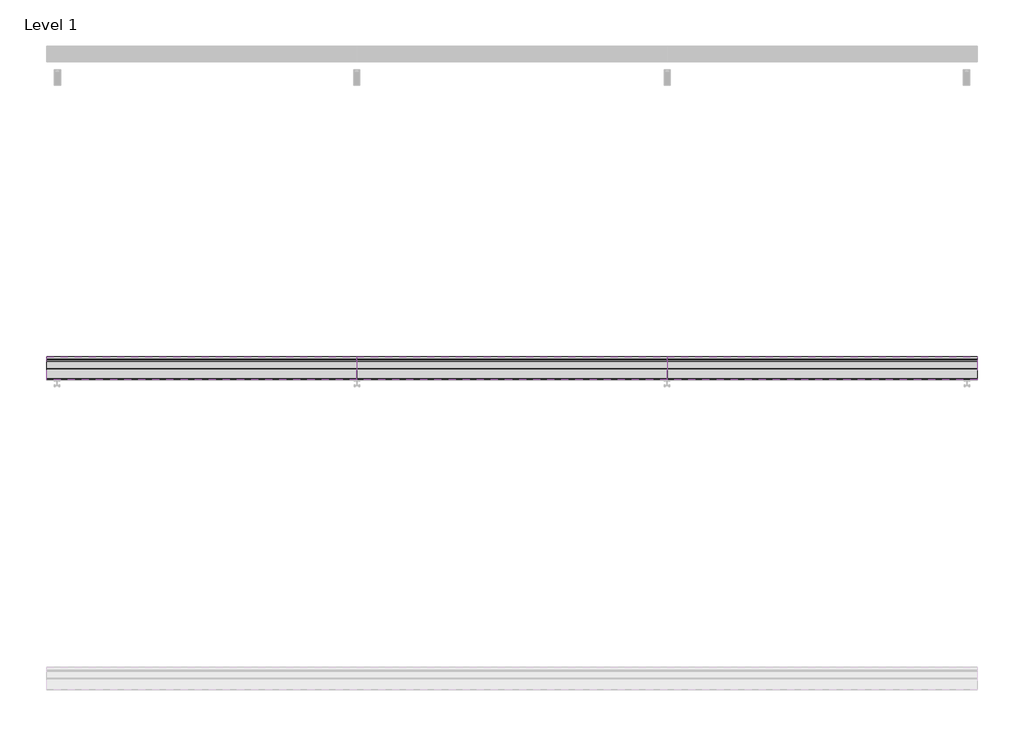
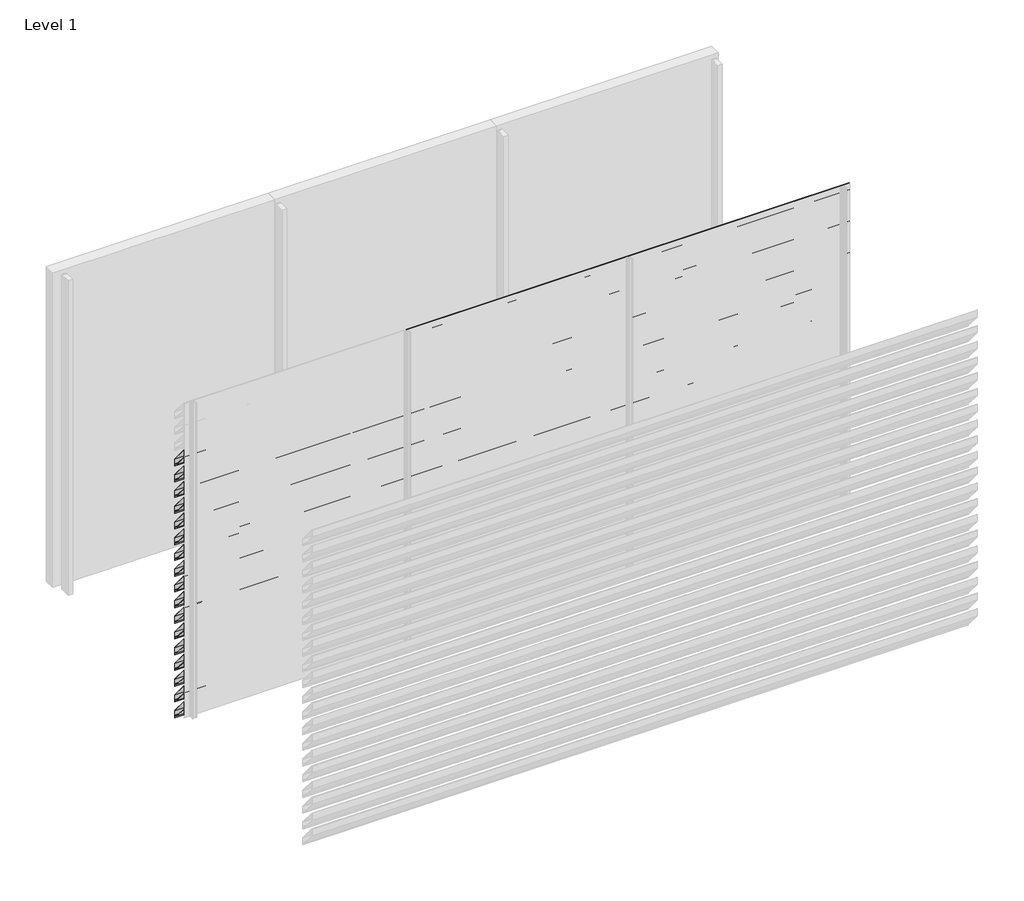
# One storey, part 6 of 16: 56 proxies.
"""IFC4 building model written with IfcOpenShell, lengths in millimetres."""

from ifc_helpers import new_model, si_unit, frame, origin, place, context, project, spatial, polyline, outline, extrude, element, save

model = new_model("IFC4")

# Units and contexts
model_context = context("Model", 3, world=origin())
ifc_project = project(units=[si_unit("LENGTHUNIT", "METRE", prefix="MILLI")], contexts=[model_context])

# Site, building, storey
site = spatial("IfcSite", under=ifc_project)
building = spatial("IfcBuilding", under=site)
storey = spatial("IfcBuildingStorey", under=building, Name="Level 1", Elevation=0.0)

# Proxies
placement = place(None, origin())
element("IfcBuildingElementProxy", 1, Name="Wall Sweeps", at=placement, inside=storey, context=model_context, shape_type="SweptSolid", body=[
    extrude(outline(polyline([(-41851.0, 2380.0), (-41851.0, 2311.0), (-41853.5, 2312.1657691), (-41853.5, 2325.7059843), (-41870.2498671, 2345.6676986), (-41880.9351065, 2345.6676986), (-41998.0, 2485.1802059), (-41998.0, 2550.0), (-41993.6469373, 2550.0), (-41851.0, 2380.0)]), holes=[polyline([(-41996.1, 2548.1), (-41996.1, 2485.8717493), (-41880.049122, 2347.5676986), (-41869.3638825, 2347.5676986), (-41852.9, 2327.9468074), (-41852.9, 2379.3084566), (-41994.5329219, 2548.1), (-41996.1, 2548.1)])]), frame((0.0, 0.0, 0.0), z_axis=(1.0, 0.0, 0.0), x_axis=(0.0, 1.0, 0.0)), (0.0, 0.0, 1.0), 2000.0),
])
element("IfcBuildingElementProxy", 2, Name="Wall Sweeps", at=placement, inside=storey, context=model_context, shape_type="SweptSolid", body=[
    extrude(outline(polyline([(-41851.0, 2230.0), (-41851.0, 2161.0), (-41853.5, 2162.1657691), (-41853.5, 2175.7059843), (-41870.2498671, 2195.6676986), (-41880.9351065, 2195.6676986), (-41998.0, 2335.1802059), (-41998.0, 2400.0), (-41993.6469373, 2400.0), (-41851.0, 2230.0)]), holes=[polyline([(-41996.1, 2398.1), (-41996.1, 2335.8717493), (-41880.049122, 2197.5676986), (-41869.3638825, 2197.5676986), (-41852.9, 2177.9468074), (-41852.9, 2229.3084566), (-41994.5329219, 2398.1), (-41996.1, 2398.1)])]), frame((0.0, 0.0, 0.0), z_axis=(1.0, 0.0, 0.0), x_axis=(0.0, 1.0, 0.0)), (0.0, 0.0, 1.0), 2000.0),
])
element("IfcBuildingElementProxy", 3, Name="Wall Sweeps", at=placement, inside=storey, context=model_context, shape_type="SweptSolid", body=[
    extrude(outline(polyline([(-41851.0, 2080.0), (-41851.0, 2011.0), (-41853.5, 2012.1657691), (-41853.5, 2025.7059843), (-41870.2498671, 2045.6676986), (-41880.9351065, 2045.6676986), (-41998.0, 2185.1802059), (-41998.0, 2250.0), (-41993.6469373, 2250.0), (-41851.0, 2080.0)]), holes=[polyline([(-41996.1, 2248.1), (-41996.1, 2185.8717493), (-41880.049122, 2047.5676986), (-41869.3638825, 2047.5676986), (-41852.9, 2027.9468074), (-41852.9, 2079.3084566), (-41994.5329219, 2248.1), (-41996.1, 2248.1)])]), frame((0.0, 0.0, 0.0), z_axis=(1.0, 0.0, 0.0), x_axis=(0.0, 1.0, 0.0)), (0.0, 0.0, 1.0), 2000.0),
])
element("IfcBuildingElementProxy", 4, Name="Wall Sweeps", at=placement, inside=storey, context=model_context, shape_type="SweptSolid", body=[
    extrude(outline(polyline([(-41851.0, 1930.0), (-41851.0, 1861.0), (-41853.5, 1862.1657691), (-41853.5, 1875.7059843), (-41870.2498671, 1895.6676986), (-41880.9351065, 1895.6676986), (-41998.0, 2035.1802059), (-41998.0, 2100.0), (-41993.6469373, 2100.0), (-41851.0, 1930.0)]), holes=[polyline([(-41996.1, 2098.1), (-41996.1, 2035.8717493), (-41880.049122, 1897.5676986), (-41869.3638825, 1897.5676986), (-41852.9, 1877.9468074), (-41852.9, 1929.3084566), (-41994.5329219, 2098.1), (-41996.1, 2098.1)])]), frame((0.0, 0.0, 0.0), z_axis=(1.0, 0.0, 0.0), x_axis=(0.0, 1.0, 0.0)), (0.0, 0.0, 1.0), 2000.0),
])
element("IfcBuildingElementProxy", 5, Name="Wall Sweeps", at=placement, inside=storey, context=model_context, shape_type="SweptSolid", body=[
    extrude(outline(polyline([(-41851.0, 1780.0), (-41851.0, 1711.0), (-41853.5, 1712.1657691), (-41853.5, 1725.7059843), (-41870.2498671, 1745.6676986), (-41880.9351065, 1745.6676986), (-41998.0, 1885.1802059), (-41998.0, 1950.0), (-41993.6469373, 1950.0), (-41851.0, 1780.0)]), holes=[polyline([(-41996.1, 1948.1), (-41996.1, 1885.8717493), (-41880.049122, 1747.5676986), (-41869.3638825, 1747.5676986), (-41852.9, 1727.9468074), (-41852.9, 1779.3084566), (-41994.5329219, 1948.1), (-41996.1, 1948.1)])]), frame((0.0, 0.0, 0.0), z_axis=(1.0, 0.0, 0.0), x_axis=(0.0, 1.0, 0.0)), (0.0, 0.0, 1.0), 2000.0),
])
element("IfcBuildingElementProxy", 6, Name="Wall Sweeps", at=placement, inside=storey, context=model_context, shape_type="SweptSolid", body=[
    extrude(outline(polyline([(-41851.0, 1630.0), (-41851.0, 1561.0), (-41853.5, 1562.1657691), (-41853.5, 1575.7059843), (-41870.2498671, 1595.6676986), (-41880.9351065, 1595.6676986), (-41998.0, 1735.1802059), (-41998.0, 1800.0), (-41993.6469373, 1800.0), (-41851.0, 1630.0)]), holes=[polyline([(-41996.1, 1798.1), (-41996.1, 1735.8717493), (-41880.049122, 1597.5676986), (-41869.3638825, 1597.5676986), (-41852.9, 1577.9468074), (-41852.9, 1629.3084566), (-41994.5329219, 1798.1), (-41996.1, 1798.1)])]), frame((0.0, 0.0, 0.0), z_axis=(1.0, 0.0, 0.0), x_axis=(0.0, 1.0, 0.0)), (0.0, 0.0, 1.0), 2000.0),
])
element("IfcBuildingElementProxy", 7, Name="Wall Sweeps", at=placement, inside=storey, context=model_context, shape_type="SweptSolid", body=[
    extrude(outline(polyline([(-41851.0, 1480.0), (-41851.0, 1411.0), (-41853.5, 1412.1657691), (-41853.5, 1425.7059843), (-41870.2498671, 1445.6676986), (-41880.9351065, 1445.6676986), (-41998.0, 1585.1802059), (-41998.0, 1650.0), (-41993.6469373, 1650.0), (-41851.0, 1480.0)]), holes=[polyline([(-41996.1, 1648.1), (-41996.1, 1585.8717493), (-41880.049122, 1447.5676986), (-41869.3638825, 1447.5676986), (-41852.9, 1427.9468074), (-41852.9, 1479.3084566), (-41994.5329219, 1648.1), (-41996.1, 1648.1)])]), frame((0.0, 0.0, 0.0), z_axis=(1.0, 0.0, 0.0), x_axis=(0.0, 1.0, 0.0)), (0.0, 0.0, 1.0), 2000.0),
])
element("IfcBuildingElementProxy", 8, Name="Wall Sweeps", at=placement, inside=storey, context=model_context, shape_type="SweptSolid", body=[
    extrude(outline(polyline([(-41851.0, 1330.0), (-41851.0, 1261.0), (-41853.5, 1262.1657691), (-41853.5, 1275.7059843), (-41870.2498671, 1295.6676986), (-41880.9351065, 1295.6676986), (-41998.0, 1435.1802059), (-41998.0, 1500.0), (-41993.6469373, 1500.0), (-41851.0, 1330.0)]), holes=[polyline([(-41996.1, 1498.1), (-41996.1, 1435.8717493), (-41880.049122, 1297.5676986), (-41869.3638825, 1297.5676986), (-41852.9, 1277.9468074), (-41852.9, 1329.3084566), (-41994.5329219, 1498.1), (-41996.1, 1498.1)])]), frame((0.0, 0.0, 0.0), z_axis=(1.0, 0.0, 0.0), x_axis=(0.0, 1.0, 0.0)), (0.0, 0.0, 1.0), 2000.0),
])
element("IfcBuildingElementProxy", 9, Name="Wall Sweeps", at=placement, inside=storey, context=model_context, shape_type="SweptSolid", body=[
    extrude(outline(polyline([(-41851.0, 1180.0), (-41851.0, 1111.0), (-41853.5, 1112.1657691), (-41853.5, 1125.7059843), (-41870.2498671, 1145.6676986), (-41880.9351065, 1145.6676986), (-41998.0, 1285.1802059), (-41998.0, 1350.0), (-41993.6469373, 1350.0), (-41851.0, 1180.0)]), holes=[polyline([(-41996.1, 1348.1), (-41996.1, 1285.8717493), (-41880.049122, 1147.5676986), (-41869.3638825, 1147.5676986), (-41852.9, 1127.9468074), (-41852.9, 1179.3084566), (-41994.5329219, 1348.1), (-41996.1, 1348.1)])]), frame((0.0, 0.0, 0.0), z_axis=(1.0, 0.0, 0.0), x_axis=(0.0, 1.0, 0.0)), (0.0, 0.0, 1.0), 2000.0),
])
element("IfcBuildingElementProxy", 10, Name="Wall Sweeps", at=placement, inside=storey, context=model_context, shape_type="SweptSolid", body=[
    extrude(outline(polyline([(-41851.0, 1030.0), (-41851.0, 961.0), (-41853.5, 962.1657691), (-41853.5, 975.7059843), (-41870.2498671, 995.6676986), (-41880.9351065, 995.6676986), (-41998.0, 1135.1802059), (-41998.0, 1200.0), (-41993.6469373, 1200.0), (-41851.0, 1030.0)]), holes=[polyline([(-41996.1, 1198.1), (-41996.1, 1135.8717493), (-41880.049122, 997.5676986), (-41869.3638825, 997.5676986), (-41852.9, 977.9468074), (-41852.9, 1029.3084566), (-41994.5329219, 1198.1), (-41996.1, 1198.1)])]), frame((0.0, 0.0, 0.0), z_axis=(1.0, 0.0, 0.0), x_axis=(0.0, 1.0, 0.0)), (0.0, 0.0, 1.0), 2000.0),
])
element("IfcBuildingElementProxy", 11, Name="Wall Sweeps", at=placement, inside=storey, context=model_context, shape_type="SweptSolid", body=[
    extrude(outline(polyline([(-41851.0, 880.0), (-41851.0, 811.0), (-41853.5, 812.1657691), (-41853.5, 825.7059843), (-41870.2498671, 845.6676986), (-41880.9351065, 845.6676986), (-41998.0, 985.1802059), (-41998.0, 1050.0), (-41993.6469373, 1050.0), (-41851.0, 880.0)]), holes=[polyline([(-41996.1, 1048.1), (-41996.1, 985.8717493), (-41880.049122, 847.5676986), (-41869.3638825, 847.5676986), (-41852.9, 827.9468074), (-41852.9, 879.3084566), (-41994.5329219, 1048.1), (-41996.1, 1048.1)])]), frame((0.0, 0.0, 0.0), z_axis=(1.0, 0.0, 0.0), x_axis=(0.0, 1.0, 0.0)), (0.0, 0.0, 1.0), 2000.0),
])
element("IfcBuildingElementProxy", 12, Name="Wall Sweeps", at=placement, inside=storey, context=model_context, shape_type="SweptSolid", body=[
    extrude(outline(polyline([(-41851.0, 730.0), (-41851.0, 661.0), (-41853.5, 662.1657691), (-41853.5, 675.7059843), (-41870.2498671, 695.6676986), (-41880.9351065, 695.6676986), (-41998.0, 835.1802059), (-41998.0, 900.0), (-41993.6469373, 900.0), (-41851.0, 730.0)]), holes=[polyline([(-41996.1, 898.1), (-41996.1, 835.8717493), (-41880.049122, 697.5676986), (-41869.3638825, 697.5676986), (-41852.9, 677.9468074), (-41852.9, 729.3084566), (-41994.5329219, 898.1), (-41996.1, 898.1)])]), frame((0.0, 0.0, 0.0), z_axis=(1.0, 0.0, 0.0), x_axis=(0.0, 1.0, 0.0)), (0.0, 0.0, 1.0), 2000.0),
])
element("IfcBuildingElementProxy", 13, Name="Wall Sweeps", at=placement, inside=storey, context=model_context, shape_type="SweptSolid", body=[
    extrude(outline(polyline([(-41851.0, 580.0), (-41851.0, 511.0), (-41853.5, 512.1657691), (-41853.5, 525.7059843), (-41870.2498671, 545.6676986), (-41880.9351065, 545.6676986), (-41998.0, 685.1802059), (-41998.0, 750.0), (-41993.6469373, 750.0), (-41851.0, 580.0)]), holes=[polyline([(-41996.1, 748.1), (-41996.1, 685.8717493), (-41880.049122, 547.5676986), (-41869.3638825, 547.5676986), (-41852.9, 527.9468074), (-41852.9, 579.3084566), (-41994.5329219, 748.1), (-41996.1, 748.1)])]), frame((0.0, 0.0, 0.0), z_axis=(1.0, 0.0, 0.0), x_axis=(0.0, 1.0, 0.0)), (0.0, 0.0, 1.0), 2000.0),
])
element("IfcBuildingElementProxy", 14, Name="Wall Sweeps", at=placement, inside=storey, context=model_context, shape_type="SweptSolid", body=[
    extrude(outline(polyline([(-41851.0, 430.0), (-41851.0, 361.0), (-41853.5, 362.1657691), (-41853.5, 375.7059843), (-41870.2498671, 395.6676986), (-41880.9351065, 395.6676986), (-41998.0, 535.1802059), (-41998.0, 600.0), (-41993.6469373, 600.0), (-41851.0, 430.0)]), holes=[polyline([(-41996.1, 598.1), (-41996.1, 535.8717493), (-41880.049122, 397.5676986), (-41869.3638825, 397.5676986), (-41852.9, 377.9468074), (-41852.9, 429.3084566), (-41994.5329219, 598.1), (-41996.1, 598.1)])]), frame((0.0, 0.0, 0.0), z_axis=(1.0, 0.0, 0.0), x_axis=(0.0, 1.0, 0.0)), (0.0, 0.0, 1.0), 2000.0),
])
element("IfcBuildingElementProxy", 15, Name="Wall Sweeps", at=placement, inside=storey, context=model_context, shape_type="SweptSolid", body=[
    extrude(outline(polyline([(-41851.0, 280.0), (-41851.0, 211.0), (-41853.5, 212.1657691), (-41853.5, 225.7059843), (-41870.2498671, 245.6676986), (-41880.9351065, 245.6676986), (-41998.0, 385.1802059), (-41998.0, 450.0), (-41993.6469373, 450.0), (-41851.0, 280.0)]), holes=[polyline([(-41996.1, 448.1), (-41996.1, 385.8717493), (-41880.049122, 247.5676986), (-41869.3638825, 247.5676986), (-41852.9, 227.9468074), (-41852.9, 279.3084566), (-41994.5329219, 448.1), (-41996.1, 448.1)])]), frame((0.0, 0.0, 0.0), z_axis=(1.0, 0.0, 0.0), x_axis=(0.0, 1.0, 0.0)), (0.0, 0.0, 1.0), 2000.0),
])
element("IfcBuildingElementProxy", 16, Name="Wall Sweeps", at=placement, inside=storey, context=model_context, shape_type="SweptSolid", body=[
    extrude(outline(polyline([(-41851.0, 130.0), (-41851.0, 61.0), (-41853.5, 62.1657691), (-41853.5, 75.7059843), (-41870.2498671, 95.6676986), (-41880.9351065, 95.6676986), (-41998.0, 235.1802059), (-41998.0, 300.0), (-41993.6469373, 300.0), (-41851.0, 130.0)]), holes=[polyline([(-41996.1, 298.1), (-41996.1, 235.8717493), (-41880.049122, 97.5676986), (-41869.3638825, 97.5676986), (-41852.9, 77.9468074), (-41852.9, 129.3084566), (-41994.5329219, 298.1), (-41996.1, 298.1)])]), frame((0.0, 0.0, 0.0), z_axis=(1.0, 0.0, 0.0), x_axis=(0.0, 1.0, 0.0)), (0.0, 0.0, 1.0), 2000.0),
])
element("IfcBuildingElementProxy", 17, Name="Wall Sweeps", at=placement, inside=storey, context=model_context, shape_type="SweptSolid", body=[
    extrude(outline(polyline([(-41851.0, -20.0), (-41851.0, -89.0), (-41853.5, -87.8342309), (-41853.5, -74.2940157), (-41870.2498671, -54.3323014), (-41880.9351065, -54.3323014), (-41998.0, 85.1802059), (-41998.0, 150.0), (-41993.6469373, 150.0), (-41851.0, -20.0)]), holes=[polyline([(-41996.1, 148.1), (-41996.1, 85.8717493), (-41880.049122, -52.4323014), (-41869.3638825, -52.4323014), (-41852.9, -72.0531926), (-41852.9, -20.6915434), (-41994.5329219, 148.1), (-41996.1, 148.1)])]), frame((0.0, 0.0, 0.0), z_axis=(1.0, 0.0, 0.0), x_axis=(0.0, 1.0, 0.0)), (0.0, 0.0, 1.0), 2000.0),
])
element("IfcBuildingElementProxy", 18, Name="Wall Sweeps", at=placement, inside=storey, context=model_context, shape_type="SweptSolid", body=[
    extrude(outline(polyline([(-41851.0, 2830.0), (-41851.0, 2761.0), (-41853.5, 2762.1657691), (-41853.5, 2775.7059843), (-41870.2498671, 2795.6676986), (-41880.9351065, 2795.6676986), (-41998.0, 2935.1802059), (-41998.0, 3000.0), (-41993.6469373, 3000.0), (-41851.0, 2830.0)]), holes=[polyline([(-41996.1, 2998.1), (-41996.1, 2935.8717493), (-41880.049122, 2797.5676986), (-41869.3638825, 2797.5676986), (-41852.9, 2777.9468074), (-41852.9, 2829.3084566), (-41994.5329219, 2998.1), (-41996.1, 2998.1)])]), frame((2000.0, 0.0, 0.0), z_axis=(1.0, 0.0, 0.0), x_axis=(0.0, 1.0, 0.0)), (0.0, 0.0, 1.0), 2000.0),
])
element("IfcBuildingElementProxy", 19, Name="Wall Sweeps", at=placement, inside=storey, context=model_context, shape_type="SweptSolid", body=[
    extrude(outline(polyline([(-41851.0, 2680.0), (-41851.0, 2611.0), (-41853.5, 2612.1657691), (-41853.5, 2625.7059843), (-41870.2498671, 2645.6676986), (-41880.9351065, 2645.6676986), (-41998.0, 2785.1802059), (-41998.0, 2850.0), (-41993.6469373, 2850.0), (-41851.0, 2680.0)]), holes=[polyline([(-41996.1, 2848.1), (-41996.1, 2785.8717493), (-41880.049122, 2647.5676986), (-41869.3638825, 2647.5676986), (-41852.9, 2627.9468074), (-41852.9, 2679.3084566), (-41994.5329219, 2848.1), (-41996.1, 2848.1)])]), frame((2000.0, 0.0, 0.0), z_axis=(1.0, 0.0, 0.0), x_axis=(0.0, 1.0, 0.0)), (0.0, 0.0, 1.0), 2000.0),
])
element("IfcBuildingElementProxy", 20, Name="Wall Sweeps", at=placement, inside=storey, context=model_context, shape_type="SweptSolid", body=[
    extrude(outline(polyline([(-41851.0, 2530.0), (-41851.0, 2461.0), (-41853.5, 2462.1657691), (-41853.5, 2475.7059843), (-41870.2498671, 2495.6676986), (-41880.9351065, 2495.6676986), (-41998.0, 2635.1802059), (-41998.0, 2700.0), (-41993.6469373, 2700.0), (-41851.0, 2530.0)]), holes=[polyline([(-41996.1, 2698.1), (-41996.1, 2635.8717493), (-41880.049122, 2497.5676986), (-41869.3638825, 2497.5676986), (-41852.9, 2477.9468074), (-41852.9, 2529.3084566), (-41994.5329219, 2698.1), (-41996.1, 2698.1)])]), frame((2000.0, 0.0, 0.0), z_axis=(1.0, 0.0, 0.0), x_axis=(0.0, 1.0, 0.0)), (0.0, 0.0, 1.0), 2000.0),
])
element("IfcBuildingElementProxy", 21, Name="Wall Sweeps", at=placement, inside=storey, context=model_context, shape_type="SweptSolid", body=[
    extrude(outline(polyline([(-41851.0, 2380.0), (-41851.0, 2311.0), (-41853.5, 2312.1657691), (-41853.5, 2325.7059843), (-41870.2498671, 2345.6676986), (-41880.9351065, 2345.6676986), (-41998.0, 2485.1802059), (-41998.0, 2550.0), (-41993.6469373, 2550.0), (-41851.0, 2380.0)]), holes=[polyline([(-41996.1, 2548.1), (-41996.1, 2485.8717493), (-41880.049122, 2347.5676986), (-41869.3638825, 2347.5676986), (-41852.9, 2327.9468074), (-41852.9, 2379.3084566), (-41994.5329219, 2548.1), (-41996.1, 2548.1)])]), frame((2000.0, 0.0, 0.0), z_axis=(1.0, 0.0, 0.0), x_axis=(0.0, 1.0, 0.0)), (0.0, 0.0, 1.0), 2000.0),
])
element("IfcBuildingElementProxy", 22, Name="Wall Sweeps", at=placement, inside=storey, context=model_context, shape_type="SweptSolid", body=[
    extrude(outline(polyline([(-41851.0, 2230.0), (-41851.0, 2161.0), (-41853.5, 2162.1657691), (-41853.5, 2175.7059843), (-41870.2498671, 2195.6676986), (-41880.9351065, 2195.6676986), (-41998.0, 2335.1802059), (-41998.0, 2400.0), (-41993.6469373, 2400.0), (-41851.0, 2230.0)]), holes=[polyline([(-41996.1, 2398.1), (-41996.1, 2335.8717493), (-41880.049122, 2197.5676986), (-41869.3638825, 2197.5676986), (-41852.9, 2177.9468074), (-41852.9, 2229.3084566), (-41994.5329219, 2398.1), (-41996.1, 2398.1)])]), frame((2000.0, 0.0, 0.0), z_axis=(1.0, 0.0, 0.0), x_axis=(0.0, 1.0, 0.0)), (0.0, 0.0, 1.0), 2000.0),
])
element("IfcBuildingElementProxy", 23, Name="Wall Sweeps", at=placement, inside=storey, context=model_context, shape_type="SweptSolid", body=[
    extrude(outline(polyline([(-41851.0, 2080.0), (-41851.0, 2011.0), (-41853.5, 2012.1657691), (-41853.5, 2025.7059843), (-41870.2498671, 2045.6676986), (-41880.9351065, 2045.6676986), (-41998.0, 2185.1802059), (-41998.0, 2250.0), (-41993.6469373, 2250.0), (-41851.0, 2080.0)]), holes=[polyline([(-41996.1, 2248.1), (-41996.1, 2185.8717493), (-41880.049122, 2047.5676986), (-41869.3638825, 2047.5676986), (-41852.9, 2027.9468074), (-41852.9, 2079.3084566), (-41994.5329219, 2248.1), (-41996.1, 2248.1)])]), frame((2000.0, 0.0, 0.0), z_axis=(1.0, 0.0, 0.0), x_axis=(0.0, 1.0, 0.0)), (0.0, 0.0, 1.0), 2000.0),
])
element("IfcBuildingElementProxy", 24, Name="Wall Sweeps", at=placement, inside=storey, context=model_context, shape_type="SweptSolid", body=[
    extrude(outline(polyline([(-41851.0, 1930.0), (-41851.0, 1861.0), (-41853.5, 1862.1657691), (-41853.5, 1875.7059843), (-41870.2498671, 1895.6676986), (-41880.9351065, 1895.6676986), (-41998.0, 2035.1802059), (-41998.0, 2100.0), (-41993.6469373, 2100.0), (-41851.0, 1930.0)]), holes=[polyline([(-41996.1, 2098.1), (-41996.1, 2035.8717493), (-41880.049122, 1897.5676986), (-41869.3638825, 1897.5676986), (-41852.9, 1877.9468074), (-41852.9, 1929.3084566), (-41994.5329219, 2098.1), (-41996.1, 2098.1)])]), frame((2000.0, 0.0, 0.0), z_axis=(1.0, 0.0, 0.0), x_axis=(0.0, 1.0, 0.0)), (0.0, 0.0, 1.0), 2000.0),
])
element("IfcBuildingElementProxy", 25, Name="Wall Sweeps", at=placement, inside=storey, context=model_context, shape_type="SweptSolid", body=[
    extrude(outline(polyline([(-41851.0, 1780.0), (-41851.0, 1711.0), (-41853.5, 1712.1657691), (-41853.5, 1725.7059843), (-41870.2498671, 1745.6676986), (-41880.9351065, 1745.6676986), (-41998.0, 1885.1802059), (-41998.0, 1950.0), (-41993.6469373, 1950.0), (-41851.0, 1780.0)]), holes=[polyline([(-41996.1, 1948.1), (-41996.1, 1885.8717493), (-41880.049122, 1747.5676986), (-41869.3638825, 1747.5676986), (-41852.9, 1727.9468074), (-41852.9, 1779.3084566), (-41994.5329219, 1948.1), (-41996.1, 1948.1)])]), frame((2000.0, 0.0, 0.0), z_axis=(1.0, 0.0, 0.0), x_axis=(0.0, 1.0, 0.0)), (0.0, 0.0, 1.0), 2000.0),
])
element("IfcBuildingElementProxy", 26, Name="Wall Sweeps", at=placement, inside=storey, context=model_context, shape_type="SweptSolid", body=[
    extrude(outline(polyline([(-41851.0, 1630.0), (-41851.0, 1561.0), (-41853.5, 1562.1657691), (-41853.5, 1575.7059843), (-41870.2498671, 1595.6676986), (-41880.9351065, 1595.6676986), (-41998.0, 1735.1802059), (-41998.0, 1800.0), (-41993.6469373, 1800.0), (-41851.0, 1630.0)]), holes=[polyline([(-41996.1, 1798.1), (-41996.1, 1735.8717493), (-41880.049122, 1597.5676986), (-41869.3638825, 1597.5676986), (-41852.9, 1577.9468074), (-41852.9, 1629.3084566), (-41994.5329219, 1798.1), (-41996.1, 1798.1)])]), frame((2000.0, 0.0, 0.0), z_axis=(1.0, 0.0, 0.0), x_axis=(0.0, 1.0, 0.0)), (0.0, 0.0, 1.0), 2000.0),
])
element("IfcBuildingElementProxy", 27, Name="Wall Sweeps", at=placement, inside=storey, context=model_context, shape_type="SweptSolid", body=[
    extrude(outline(polyline([(-41851.0, 1480.0), (-41851.0, 1411.0), (-41853.5, 1412.1657691), (-41853.5, 1425.7059843), (-41870.2498671, 1445.6676986), (-41880.9351065, 1445.6676986), (-41998.0, 1585.1802059), (-41998.0, 1650.0), (-41993.6469373, 1650.0), (-41851.0, 1480.0)]), holes=[polyline([(-41996.1, 1648.1), (-41996.1, 1585.8717493), (-41880.049122, 1447.5676986), (-41869.3638825, 1447.5676986), (-41852.9, 1427.9468074), (-41852.9, 1479.3084566), (-41994.5329219, 1648.1), (-41996.1, 1648.1)])]), frame((2000.0, 0.0, 0.0), z_axis=(1.0, 0.0, 0.0), x_axis=(0.0, 1.0, 0.0)), (0.0, 0.0, 1.0), 2000.0),
])
element("IfcBuildingElementProxy", 28, Name="Wall Sweeps", at=placement, inside=storey, context=model_context, shape_type="SweptSolid", body=[
    extrude(outline(polyline([(-41851.0, 1330.0), (-41851.0, 1261.0), (-41853.5, 1262.1657691), (-41853.5, 1275.7059843), (-41870.2498671, 1295.6676986), (-41880.9351065, 1295.6676986), (-41998.0, 1435.1802059), (-41998.0, 1500.0), (-41993.6469373, 1500.0), (-41851.0, 1330.0)]), holes=[polyline([(-41996.1, 1498.1), (-41996.1, 1435.8717493), (-41880.049122, 1297.5676986), (-41869.3638825, 1297.5676986), (-41852.9, 1277.9468074), (-41852.9, 1329.3084566), (-41994.5329219, 1498.1), (-41996.1, 1498.1)])]), frame((2000.0, 0.0, 0.0), z_axis=(1.0, 0.0, 0.0), x_axis=(0.0, 1.0, 0.0)), (0.0, 0.0, 1.0), 2000.0),
])
element("IfcBuildingElementProxy", 29, Name="Wall Sweeps", at=placement, inside=storey, context=model_context, shape_type="SweptSolid", body=[
    extrude(outline(polyline([(-41851.0, 1180.0), (-41851.0, 1111.0), (-41853.5, 1112.1657691), (-41853.5, 1125.7059843), (-41870.2498671, 1145.6676986), (-41880.9351065, 1145.6676986), (-41998.0, 1285.1802059), (-41998.0, 1350.0), (-41993.6469373, 1350.0), (-41851.0, 1180.0)]), holes=[polyline([(-41996.1, 1348.1), (-41996.1, 1285.8717493), (-41880.049122, 1147.5676986), (-41869.3638825, 1147.5676986), (-41852.9, 1127.9468074), (-41852.9, 1179.3084566), (-41994.5329219, 1348.1), (-41996.1, 1348.1)])]), frame((2000.0, 0.0, 0.0), z_axis=(1.0, 0.0, 0.0), x_axis=(0.0, 1.0, 0.0)), (0.0, 0.0, 1.0), 2000.0),
])
element("IfcBuildingElementProxy", 30, Name="Wall Sweeps", at=placement, inside=storey, context=model_context, shape_type="SweptSolid", body=[
    extrude(outline(polyline([(-41851.0, 1030.0), (-41851.0, 961.0), (-41853.5, 962.1657691), (-41853.5, 975.7059843), (-41870.2498671, 995.6676986), (-41880.9351065, 995.6676986), (-41998.0, 1135.1802059), (-41998.0, 1200.0), (-41993.6469373, 1200.0), (-41851.0, 1030.0)]), holes=[polyline([(-41996.1, 1198.1), (-41996.1, 1135.8717493), (-41880.049122, 997.5676986), (-41869.3638825, 997.5676986), (-41852.9, 977.9468074), (-41852.9, 1029.3084566), (-41994.5329219, 1198.1), (-41996.1, 1198.1)])]), frame((2000.0, 0.0, 0.0), z_axis=(1.0, 0.0, 0.0), x_axis=(0.0, 1.0, 0.0)), (0.0, 0.0, 1.0), 2000.0),
])
element("IfcBuildingElementProxy", 31, Name="Wall Sweeps", at=placement, inside=storey, context=model_context, shape_type="SweptSolid", body=[
    extrude(outline(polyline([(-41851.0, 880.0), (-41851.0, 811.0), (-41853.5, 812.1657691), (-41853.5, 825.7059843), (-41870.2498671, 845.6676986), (-41880.9351065, 845.6676986), (-41998.0, 985.1802059), (-41998.0, 1050.0), (-41993.6469373, 1050.0), (-41851.0, 880.0)]), holes=[polyline([(-41996.1, 1048.1), (-41996.1, 985.8717493), (-41880.049122, 847.5676986), (-41869.3638825, 847.5676986), (-41852.9, 827.9468074), (-41852.9, 879.3084566), (-41994.5329219, 1048.1), (-41996.1, 1048.1)])]), frame((2000.0, 0.0, 0.0), z_axis=(1.0, 0.0, 0.0), x_axis=(0.0, 1.0, 0.0)), (0.0, 0.0, 1.0), 2000.0),
])
element("IfcBuildingElementProxy", 32, Name="Wall Sweeps", at=placement, inside=storey, context=model_context, shape_type="SweptSolid", body=[
    extrude(outline(polyline([(-41851.0, 730.0), (-41851.0, 661.0), (-41853.5, 662.1657691), (-41853.5, 675.7059843), (-41870.2498671, 695.6676986), (-41880.9351065, 695.6676986), (-41998.0, 835.1802059), (-41998.0, 900.0), (-41993.6469373, 900.0), (-41851.0, 730.0)]), holes=[polyline([(-41996.1, 898.1), (-41996.1, 835.8717493), (-41880.049122, 697.5676986), (-41869.3638825, 697.5676986), (-41852.9, 677.9468074), (-41852.9, 729.3084566), (-41994.5329219, 898.1), (-41996.1, 898.1)])]), frame((2000.0, 0.0, 0.0), z_axis=(1.0, 0.0, 0.0), x_axis=(0.0, 1.0, 0.0)), (0.0, 0.0, 1.0), 2000.0),
])
element("IfcBuildingElementProxy", 33, Name="Wall Sweeps", at=placement, inside=storey, context=model_context, shape_type="SweptSolid", body=[
    extrude(outline(polyline([(-41851.0, 580.0), (-41851.0, 511.0), (-41853.5, 512.1657691), (-41853.5, 525.7059843), (-41870.2498671, 545.6676986), (-41880.9351065, 545.6676986), (-41998.0, 685.1802059), (-41998.0, 750.0), (-41993.6469373, 750.0), (-41851.0, 580.0)]), holes=[polyline([(-41996.1, 748.1), (-41996.1, 685.8717493), (-41880.049122, 547.5676986), (-41869.3638825, 547.5676986), (-41852.9, 527.9468074), (-41852.9, 579.3084566), (-41994.5329219, 748.1), (-41996.1, 748.1)])]), frame((2000.0, 0.0, 0.0), z_axis=(1.0, 0.0, 0.0), x_axis=(0.0, 1.0, 0.0)), (0.0, 0.0, 1.0), 2000.0),
])
element("IfcBuildingElementProxy", 34, Name="Wall Sweeps", at=placement, inside=storey, context=model_context, shape_type="SweptSolid", body=[
    extrude(outline(polyline([(-41851.0, 430.0), (-41851.0, 361.0), (-41853.5, 362.1657691), (-41853.5, 375.7059843), (-41870.2498671, 395.6676986), (-41880.9351065, 395.6676986), (-41998.0, 535.1802059), (-41998.0, 600.0), (-41993.6469373, 600.0), (-41851.0, 430.0)]), holes=[polyline([(-41996.1, 598.1), (-41996.1, 535.8717493), (-41880.049122, 397.5676986), (-41869.3638825, 397.5676986), (-41852.9, 377.9468074), (-41852.9, 429.3084566), (-41994.5329219, 598.1), (-41996.1, 598.1)])]), frame((2000.0, 0.0, 0.0), z_axis=(1.0, 0.0, 0.0), x_axis=(0.0, 1.0, 0.0)), (0.0, 0.0, 1.0), 2000.0),
])
element("IfcBuildingElementProxy", 35, Name="Wall Sweeps", at=placement, inside=storey, context=model_context, shape_type="SweptSolid", body=[
    extrude(outline(polyline([(-41851.0, 280.0), (-41851.0, 211.0), (-41853.5, 212.1657691), (-41853.5, 225.7059843), (-41870.2498671, 245.6676986), (-41880.9351065, 245.6676986), (-41998.0, 385.1802059), (-41998.0, 450.0), (-41993.6469373, 450.0), (-41851.0, 280.0)]), holes=[polyline([(-41996.1, 448.1), (-41996.1, 385.8717493), (-41880.049122, 247.5676986), (-41869.3638825, 247.5676986), (-41852.9, 227.9468074), (-41852.9, 279.3084566), (-41994.5329219, 448.1), (-41996.1, 448.1)])]), frame((2000.0, 0.0, 0.0), z_axis=(1.0, 0.0, 0.0), x_axis=(0.0, 1.0, 0.0)), (0.0, 0.0, 1.0), 2000.0),
])
element("IfcBuildingElementProxy", 36, Name="Wall Sweeps", at=placement, inside=storey, context=model_context, shape_type="SweptSolid", body=[
    extrude(outline(polyline([(-41851.0, 130.0), (-41851.0, 61.0), (-41853.5, 62.1657691), (-41853.5, 75.7059843), (-41870.2498671, 95.6676986), (-41880.9351065, 95.6676986), (-41998.0, 235.1802059), (-41998.0, 300.0), (-41993.6469373, 300.0), (-41851.0, 130.0)]), holes=[polyline([(-41996.1, 298.1), (-41996.1, 235.8717493), (-41880.049122, 97.5676986), (-41869.3638825, 97.5676986), (-41852.9, 77.9468074), (-41852.9, 129.3084566), (-41994.5329219, 298.1), (-41996.1, 298.1)])]), frame((2000.0, 0.0, 0.0), z_axis=(1.0, 0.0, 0.0), x_axis=(0.0, 1.0, 0.0)), (0.0, 0.0, 1.0), 2000.0),
])
element("IfcBuildingElementProxy", 37, Name="Wall Sweeps", at=placement, inside=storey, context=model_context, shape_type="SweptSolid", body=[
    extrude(outline(polyline([(-41851.0, -20.0), (-41851.0, -89.0), (-41853.5, -87.8342309), (-41853.5, -74.2940157), (-41870.2498671, -54.3323014), (-41880.9351065, -54.3323014), (-41998.0, 85.1802059), (-41998.0, 150.0), (-41993.6469373, 150.0), (-41851.0, -20.0)]), holes=[polyline([(-41996.1, 148.1), (-41996.1, 85.8717493), (-41880.049122, -52.4323014), (-41869.3638825, -52.4323014), (-41852.9, -72.0531926), (-41852.9, -20.6915434), (-41994.5329219, 148.1), (-41996.1, 148.1)])]), frame((2000.0, 0.0, 0.0), z_axis=(1.0, 0.0, 0.0), x_axis=(0.0, 1.0, 0.0)), (0.0, 0.0, 1.0), 2000.0),
])
element("IfcBuildingElementProxy", 38, Name="Wall Sweeps", at=placement, inside=storey, context=model_context, shape_type="SweptSolid", body=[
    extrude(outline(polyline([(-41851.0, 2830.0), (-41851.0, 2761.0), (-41853.5, 2762.1657691), (-41853.5, 2775.7059843), (-41870.2498671, 2795.6676986), (-41880.9351065, 2795.6676986), (-41998.0, 2935.1802059), (-41998.0, 3000.0), (-41993.6469373, 3000.0), (-41851.0, 2830.0)]), holes=[polyline([(-41996.1, 2998.1), (-41996.1, 2935.8717493), (-41880.049122, 2797.5676986), (-41869.3638825, 2797.5676986), (-41852.9, 2777.9468074), (-41852.9, 2829.3084566), (-41994.5329219, 2998.1), (-41996.1, 2998.1)])]), frame((4000.0, 0.0, 0.0), z_axis=(1.0, 0.0, 0.0), x_axis=(0.0, 1.0, 0.0)), (0.0, 0.0, 1.0), 2000.0),
])
element("IfcBuildingElementProxy", 39, Name="Wall Sweeps", at=placement, inside=storey, context=model_context, shape_type="SweptSolid", body=[
    extrude(outline(polyline([(-41851.0, 2680.0), (-41851.0, 2611.0), (-41853.5, 2612.1657691), (-41853.5, 2625.7059843), (-41870.2498671, 2645.6676986), (-41880.9351065, 2645.6676986), (-41998.0, 2785.1802059), (-41998.0, 2850.0), (-41993.6469373, 2850.0), (-41851.0, 2680.0)]), holes=[polyline([(-41996.1, 2848.1), (-41996.1, 2785.8717493), (-41880.049122, 2647.5676986), (-41869.3638825, 2647.5676986), (-41852.9, 2627.9468074), (-41852.9, 2679.3084566), (-41994.5329219, 2848.1), (-41996.1, 2848.1)])]), frame((4000.0, 0.0, 0.0), z_axis=(1.0, 0.0, 0.0), x_axis=(0.0, 1.0, 0.0)), (0.0, 0.0, 1.0), 2000.0),
])
element("IfcBuildingElementProxy", 40, Name="Wall Sweeps", at=placement, inside=storey, context=model_context, shape_type="SweptSolid", body=[
    extrude(outline(polyline([(-41851.0, 2530.0), (-41851.0, 2461.0), (-41853.5, 2462.1657691), (-41853.5, 2475.7059843), (-41870.2498671, 2495.6676986), (-41880.9351065, 2495.6676986), (-41998.0, 2635.1802059), (-41998.0, 2700.0), (-41993.6469373, 2700.0), (-41851.0, 2530.0)]), holes=[polyline([(-41996.1, 2698.1), (-41996.1, 2635.8717493), (-41880.049122, 2497.5676986), (-41869.3638825, 2497.5676986), (-41852.9, 2477.9468074), (-41852.9, 2529.3084566), (-41994.5329219, 2698.1), (-41996.1, 2698.1)])]), frame((4000.0, 0.0, 0.0), z_axis=(1.0, 0.0, 0.0), x_axis=(0.0, 1.0, 0.0)), (0.0, 0.0, 1.0), 2000.0),
])
element("IfcBuildingElementProxy", 41, Name="Wall Sweeps", at=placement, inside=storey, context=model_context, shape_type="SweptSolid", body=[
    extrude(outline(polyline([(-41851.0, 2380.0), (-41851.0, 2311.0), (-41853.5, 2312.1657691), (-41853.5, 2325.7059843), (-41870.2498671, 2345.6676986), (-41880.9351065, 2345.6676986), (-41998.0, 2485.1802059), (-41998.0, 2550.0), (-41993.6469373, 2550.0), (-41851.0, 2380.0)]), holes=[polyline([(-41996.1, 2548.1), (-41996.1, 2485.8717493), (-41880.049122, 2347.5676986), (-41869.3638825, 2347.5676986), (-41852.9, 2327.9468074), (-41852.9, 2379.3084566), (-41994.5329219, 2548.1), (-41996.1, 2548.1)])]), frame((4000.0, 0.0, 0.0), z_axis=(1.0, 0.0, 0.0), x_axis=(0.0, 1.0, 0.0)), (0.0, 0.0, 1.0), 2000.0),
])
element("IfcBuildingElementProxy", 42, Name="Wall Sweeps", at=placement, inside=storey, context=model_context, shape_type="SweptSolid", body=[
    extrude(outline(polyline([(-41851.0, 2230.0), (-41851.0, 2161.0), (-41853.5, 2162.1657691), (-41853.5, 2175.7059843), (-41870.2498671, 2195.6676986), (-41880.9351065, 2195.6676986), (-41998.0, 2335.1802059), (-41998.0, 2400.0), (-41993.6469373, 2400.0), (-41851.0, 2230.0)]), holes=[polyline([(-41996.1, 2398.1), (-41996.1, 2335.8717493), (-41880.049122, 2197.5676986), (-41869.3638825, 2197.5676986), (-41852.9, 2177.9468074), (-41852.9, 2229.3084566), (-41994.5329219, 2398.1), (-41996.1, 2398.1)])]), frame((4000.0, 0.0, 0.0), z_axis=(1.0, 0.0, 0.0), x_axis=(0.0, 1.0, 0.0)), (0.0, 0.0, 1.0), 2000.0),
])
element("IfcBuildingElementProxy", 43, Name="Wall Sweeps", at=placement, inside=storey, context=model_context, shape_type="SweptSolid", body=[
    extrude(outline(polyline([(-41851.0, 2080.0), (-41851.0, 2011.0), (-41853.5, 2012.1657691), (-41853.5, 2025.7059843), (-41870.2498671, 2045.6676986), (-41880.9351065, 2045.6676986), (-41998.0, 2185.1802059), (-41998.0, 2250.0), (-41993.6469373, 2250.0), (-41851.0, 2080.0)]), holes=[polyline([(-41996.1, 2248.1), (-41996.1, 2185.8717493), (-41880.049122, 2047.5676986), (-41869.3638825, 2047.5676986), (-41852.9, 2027.9468074), (-41852.9, 2079.3084566), (-41994.5329219, 2248.1), (-41996.1, 2248.1)])]), frame((4000.0, 0.0, 0.0), z_axis=(1.0, 0.0, 0.0), x_axis=(0.0, 1.0, 0.0)), (0.0, 0.0, 1.0), 2000.0),
])
element("IfcBuildingElementProxy", 44, Name="Wall Sweeps", at=placement, inside=storey, context=model_context, shape_type="SweptSolid", body=[
    extrude(outline(polyline([(-41851.0, 1930.0), (-41851.0, 1861.0), (-41853.5, 1862.1657691), (-41853.5, 1875.7059843), (-41870.2498671, 1895.6676986), (-41880.9351065, 1895.6676986), (-41998.0, 2035.1802059), (-41998.0, 2100.0), (-41993.6469373, 2100.0), (-41851.0, 1930.0)]), holes=[polyline([(-41996.1, 2098.1), (-41996.1, 2035.8717493), (-41880.049122, 1897.5676986), (-41869.3638825, 1897.5676986), (-41852.9, 1877.9468074), (-41852.9, 1929.3084566), (-41994.5329219, 2098.1), (-41996.1, 2098.1)])]), frame((4000.0, 0.0, 0.0), z_axis=(1.0, 0.0, 0.0), x_axis=(0.0, 1.0, 0.0)), (0.0, 0.0, 1.0), 2000.0),
])
element("IfcBuildingElementProxy", 45, Name="Wall Sweeps", at=placement, inside=storey, context=model_context, shape_type="SweptSolid", body=[
    extrude(outline(polyline([(-41851.0, 1780.0), (-41851.0, 1711.0), (-41853.5, 1712.1657691), (-41853.5, 1725.7059843), (-41870.2498671, 1745.6676986), (-41880.9351065, 1745.6676986), (-41998.0, 1885.1802059), (-41998.0, 1950.0), (-41993.6469373, 1950.0), (-41851.0, 1780.0)]), holes=[polyline([(-41996.1, 1948.1), (-41996.1, 1885.8717493), (-41880.049122, 1747.5676986), (-41869.3638825, 1747.5676986), (-41852.9, 1727.9468074), (-41852.9, 1779.3084566), (-41994.5329219, 1948.1), (-41996.1, 1948.1)])]), frame((4000.0, 0.0, 0.0), z_axis=(1.0, 0.0, 0.0), x_axis=(0.0, 1.0, 0.0)), (0.0, 0.0, 1.0), 2000.0),
])
element("IfcBuildingElementProxy", 46, Name="Wall Sweeps", at=placement, inside=storey, context=model_context, shape_type="SweptSolid", body=[
    extrude(outline(polyline([(-41851.0, 1630.0), (-41851.0, 1561.0), (-41853.5, 1562.1657691), (-41853.5, 1575.7059843), (-41870.2498671, 1595.6676986), (-41880.9351065, 1595.6676986), (-41998.0, 1735.1802059), (-41998.0, 1800.0), (-41993.6469373, 1800.0), (-41851.0, 1630.0)]), holes=[polyline([(-41996.1, 1798.1), (-41996.1, 1735.8717493), (-41880.049122, 1597.5676986), (-41869.3638825, 1597.5676986), (-41852.9, 1577.9468074), (-41852.9, 1629.3084566), (-41994.5329219, 1798.1), (-41996.1, 1798.1)])]), frame((4000.0, 0.0, 0.0), z_axis=(1.0, 0.0, 0.0), x_axis=(0.0, 1.0, 0.0)), (0.0, 0.0, 1.0), 2000.0),
])
element("IfcBuildingElementProxy", 47, Name="Wall Sweeps", at=placement, inside=storey, context=model_context, shape_type="SweptSolid", body=[
    extrude(outline(polyline([(-41851.0, 1480.0), (-41851.0, 1411.0), (-41853.5, 1412.1657691), (-41853.5, 1425.7059843), (-41870.2498671, 1445.6676986), (-41880.9351065, 1445.6676986), (-41998.0, 1585.1802059), (-41998.0, 1650.0), (-41993.6469373, 1650.0), (-41851.0, 1480.0)]), holes=[polyline([(-41996.1, 1648.1), (-41996.1, 1585.8717493), (-41880.049122, 1447.5676986), (-41869.3638825, 1447.5676986), (-41852.9, 1427.9468074), (-41852.9, 1479.3084566), (-41994.5329219, 1648.1), (-41996.1, 1648.1)])]), frame((4000.0, 0.0, 0.0), z_axis=(1.0, 0.0, 0.0), x_axis=(0.0, 1.0, 0.0)), (0.0, 0.0, 1.0), 2000.0),
])
element("IfcBuildingElementProxy", 48, Name="Wall Sweeps", at=placement, inside=storey, context=model_context, shape_type="SweptSolid", body=[
    extrude(outline(polyline([(-41851.0, 1330.0), (-41851.0, 1261.0), (-41853.5, 1262.1657691), (-41853.5, 1275.7059843), (-41870.2498671, 1295.6676986), (-41880.9351065, 1295.6676986), (-41998.0, 1435.1802059), (-41998.0, 1500.0), (-41993.6469373, 1500.0), (-41851.0, 1330.0)]), holes=[polyline([(-41996.1, 1498.1), (-41996.1, 1435.8717493), (-41880.049122, 1297.5676986), (-41869.3638825, 1297.5676986), (-41852.9, 1277.9468074), (-41852.9, 1329.3084566), (-41994.5329219, 1498.1), (-41996.1, 1498.1)])]), frame((4000.0, 0.0, 0.0), z_axis=(1.0, 0.0, 0.0), x_axis=(0.0, 1.0, 0.0)), (0.0, 0.0, 1.0), 2000.0),
])
element("IfcBuildingElementProxy", 49, Name="Wall Sweeps", at=placement, inside=storey, context=model_context, shape_type="SweptSolid", body=[
    extrude(outline(polyline([(-41851.0, 1180.0), (-41851.0, 1111.0), (-41853.5, 1112.1657691), (-41853.5, 1125.7059843), (-41870.2498671, 1145.6676986), (-41880.9351065, 1145.6676986), (-41998.0, 1285.1802059), (-41998.0, 1350.0), (-41993.6469373, 1350.0), (-41851.0, 1180.0)]), holes=[polyline([(-41996.1, 1348.1), (-41996.1, 1285.8717493), (-41880.049122, 1147.5676986), (-41869.3638825, 1147.5676986), (-41852.9, 1127.9468074), (-41852.9, 1179.3084566), (-41994.5329219, 1348.1), (-41996.1, 1348.1)])]), frame((4000.0, 0.0, 0.0), z_axis=(1.0, 0.0, 0.0), x_axis=(0.0, 1.0, 0.0)), (0.0, 0.0, 1.0), 2000.0),
])
element("IfcBuildingElementProxy", 50, Name="Wall Sweeps", at=placement, inside=storey, context=model_context, shape_type="SweptSolid", body=[
    extrude(outline(polyline([(-41851.0, 1030.0), (-41851.0, 961.0), (-41853.5, 962.1657691), (-41853.5, 975.7059843), (-41870.2498671, 995.6676986), (-41880.9351065, 995.6676986), (-41998.0, 1135.1802059), (-41998.0, 1200.0), (-41993.6469373, 1200.0), (-41851.0, 1030.0)]), holes=[polyline([(-41996.1, 1198.1), (-41996.1, 1135.8717493), (-41880.049122, 997.5676986), (-41869.3638825, 997.5676986), (-41852.9, 977.9468074), (-41852.9, 1029.3084566), (-41994.5329219, 1198.1), (-41996.1, 1198.1)])]), frame((4000.0, 0.0, 0.0), z_axis=(1.0, 0.0, 0.0), x_axis=(0.0, 1.0, 0.0)), (0.0, 0.0, 1.0), 2000.0),
])
element("IfcBuildingElementProxy", 51, Name="Wall Sweeps", at=placement, inside=storey, context=model_context, shape_type="SweptSolid", body=[
    extrude(outline(polyline([(-41851.0, 880.0), (-41851.0, 811.0), (-41853.5, 812.1657691), (-41853.5, 825.7059843), (-41870.2498671, 845.6676986), (-41880.9351065, 845.6676986), (-41998.0, 985.1802059), (-41998.0, 1050.0), (-41993.6469373, 1050.0), (-41851.0, 880.0)]), holes=[polyline([(-41996.1, 1048.1), (-41996.1, 985.8717493), (-41880.049122, 847.5676986), (-41869.3638825, 847.5676986), (-41852.9, 827.9468074), (-41852.9, 879.3084566), (-41994.5329219, 1048.1), (-41996.1, 1048.1)])]), frame((4000.0, 0.0, 0.0), z_axis=(1.0, 0.0, 0.0), x_axis=(0.0, 1.0, 0.0)), (0.0, 0.0, 1.0), 2000.0),
])
element("IfcBuildingElementProxy", 52, Name="Wall Sweeps", at=placement, inside=storey, context=model_context, shape_type="SweptSolid", body=[
    extrude(outline(polyline([(-41851.0, 730.0), (-41851.0, 661.0), (-41853.5, 662.1657691), (-41853.5, 675.7059843), (-41870.2498671, 695.6676986), (-41880.9351065, 695.6676986), (-41998.0, 835.1802059), (-41998.0, 900.0), (-41993.6469373, 900.0), (-41851.0, 730.0)]), holes=[polyline([(-41996.1, 898.1), (-41996.1, 835.8717493), (-41880.049122, 697.5676986), (-41869.3638825, 697.5676986), (-41852.9, 677.9468074), (-41852.9, 729.3084566), (-41994.5329219, 898.1), (-41996.1, 898.1)])]), frame((4000.0, 0.0, 0.0), z_axis=(1.0, 0.0, 0.0), x_axis=(0.0, 1.0, 0.0)), (0.0, 0.0, 1.0), 2000.0),
])
element("IfcBuildingElementProxy", 53, Name="Wall Sweeps", at=placement, inside=storey, context=model_context, shape_type="SweptSolid", body=[
    extrude(outline(polyline([(-41851.0, 580.0), (-41851.0, 511.0), (-41853.5, 512.1657691), (-41853.5, 525.7059843), (-41870.2498671, 545.6676986), (-41880.9351065, 545.6676986), (-41998.0, 685.1802059), (-41998.0, 750.0), (-41993.6469373, 750.0), (-41851.0, 580.0)]), holes=[polyline([(-41996.1, 748.1), (-41996.1, 685.8717493), (-41880.049122, 547.5676986), (-41869.3638825, 547.5676986), (-41852.9, 527.9468074), (-41852.9, 579.3084566), (-41994.5329219, 748.1), (-41996.1, 748.1)])]), frame((4000.0, 0.0, 0.0), z_axis=(1.0, 0.0, 0.0), x_axis=(0.0, 1.0, 0.0)), (0.0, 0.0, 1.0), 2000.0),
])
element("IfcBuildingElementProxy", 54, Name="Wall Sweeps", at=placement, inside=storey, context=model_context, shape_type="SweptSolid", body=[
    extrude(outline(polyline([(-41851.0, 430.0), (-41851.0, 361.0), (-41853.5, 362.1657691), (-41853.5, 375.7059843), (-41870.2498671, 395.6676986), (-41880.9351065, 395.6676986), (-41998.0, 535.1802059), (-41998.0, 600.0), (-41993.6469373, 600.0), (-41851.0, 430.0)]), holes=[polyline([(-41996.1, 598.1), (-41996.1, 535.8717493), (-41880.049122, 397.5676986), (-41869.3638825, 397.5676986), (-41852.9, 377.9468074), (-41852.9, 429.3084566), (-41994.5329219, 598.1), (-41996.1, 598.1)])]), frame((4000.0, 0.0, 0.0), z_axis=(1.0, 0.0, 0.0), x_axis=(0.0, 1.0, 0.0)), (0.0, 0.0, 1.0), 2000.0),
])
element("IfcBuildingElementProxy", 55, Name="Wall Sweeps", at=placement, inside=storey, context=model_context, shape_type="SweptSolid", body=[
    extrude(outline(polyline([(-41851.0, 280.0), (-41851.0, 211.0), (-41853.5, 212.1657691), (-41853.5, 225.7059843), (-41870.2498671, 245.6676986), (-41880.9351065, 245.6676986), (-41998.0, 385.1802059), (-41998.0, 450.0), (-41993.6469373, 450.0), (-41851.0, 280.0)]), holes=[polyline([(-41996.1, 448.1), (-41996.1, 385.8717493), (-41880.049122, 247.5676986), (-41869.3638825, 247.5676986), (-41852.9, 227.9468074), (-41852.9, 279.3084566), (-41994.5329219, 448.1), (-41996.1, 448.1)])]), frame((4000.0, 0.0, 0.0), z_axis=(1.0, 0.0, 0.0), x_axis=(0.0, 1.0, 0.0)), (0.0, 0.0, 1.0), 2000.0),
])
element("IfcBuildingElementProxy", 56, Name="Wall Sweeps", at=placement, inside=storey, context=model_context, shape_type="SweptSolid", body=[
    extrude(outline(polyline([(-41851.0, 130.0), (-41851.0, 61.0), (-41853.5, 62.1657691), (-41853.5, 75.7059843), (-41870.2498671, 95.6676986), (-41880.9351065, 95.6676986), (-41998.0, 235.1802059), (-41998.0, 300.0), (-41993.6469373, 300.0), (-41851.0, 130.0)]), holes=[polyline([(-41996.1, 298.1), (-41996.1, 235.8717493), (-41880.049122, 97.5676986), (-41869.3638825, 97.5676986), (-41852.9, 77.9468074), (-41852.9, 129.3084566), (-41994.5329219, 298.1), (-41996.1, 298.1)])]), frame((4000.0, 0.0, 0.0), z_axis=(1.0, 0.0, 0.0), x_axis=(0.0, 1.0, 0.0)), (0.0, 0.0, 1.0), 2000.0),
])

save(model, "model.ifc")
